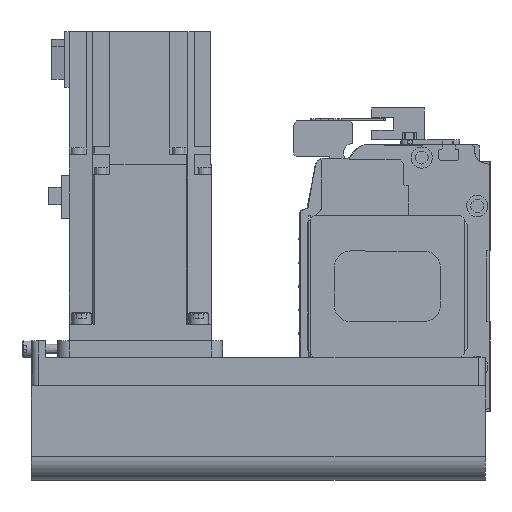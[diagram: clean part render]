
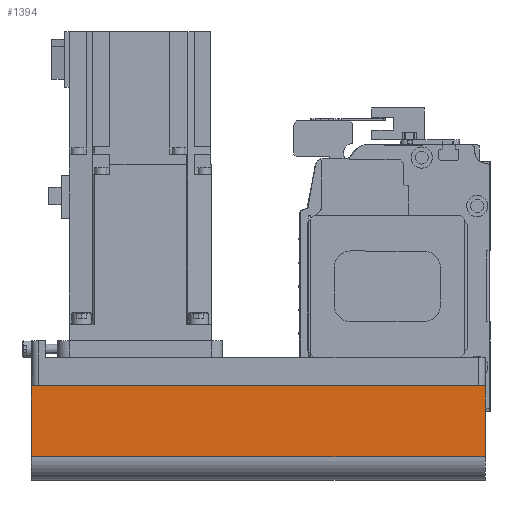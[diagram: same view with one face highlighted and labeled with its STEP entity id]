
A CAD part, left-side view. The second image highlights one B-rep face of the part: STEP entity #1394.
In plain terms, the highlighted planar face has unit normal (-1, 0, 0) as drawn and (0, -1, 0) by its records, which use the part's own axes.
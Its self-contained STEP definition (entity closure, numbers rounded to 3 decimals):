
#1394 = ADVANCED_FACE( '', ( #3271 ), #3272, .T. );
#3271 = FACE_OUTER_BOUND( '', #5783, .T. );
#3272 = PLANE( '', #5784 );
#5783 = EDGE_LOOP( '', ( #9697, #9698, #9699, #9700 ) );
#5784 = AXIS2_PLACEMENT_3D( '', #9701, #9702, #9703 );
#9697 = ORIENTED_EDGE( '', *, *, #15355, .F. );
#9698 = ORIENTED_EDGE( '', *, *, #15356, .F. );
#9699 = ORIENTED_EDGE( '', *, *, #15357, .T. );
#9700 = ORIENTED_EDGE( '', *, *, #15079, .T. );
#9701 = CARTESIAN_POINT( '', ( -192., -40., -12.1 ) );
#9702 = DIRECTION( '', ( 0., -1., 0. ) );
#9703 = DIRECTION( '', ( 0., 0., -1. ) );
#15079 = EDGE_CURVE( '', #18342, #18339, #18343, .T. );
#15355 = EDGE_CURVE( '', #18773, #18339, #18774, .T. );
#15356 = EDGE_CURVE( '', #18775, #18773, #18776, .T. );
#15357 = EDGE_CURVE( '', #18775, #18342, #18777, .T. );
#18339 = VERTEX_POINT( '', #22675 );
#18342 = VERTEX_POINT( '', #22678 );
#18343 = LINE( '', #22679, #22680 );
#18773 = VERTEX_POINT( '', #23255 );
#18774 = LINE( '', #23256, #23257 );
#18775 = VERTEX_POINT( '', #23258 );
#18776 = LINE( '', #23259, #23260 );
#18777 = LINE( '', #23261, #23262 );
#22675 = CARTESIAN_POINT( '', ( 0., -40., -42. ) );
#22678 = CARTESIAN_POINT( '', ( -192., -40., -42. ) );
#22679 = CARTESIAN_POINT( '', ( -192., -40., -42. ) );
#22680 = VECTOR( '', #26675, 1000. );
#23255 = CARTESIAN_POINT( '', ( 0., -40., -12.1 ) );
#23256 = CARTESIAN_POINT( '', ( 0., -40., -12.1 ) );
#23257 = VECTOR( '', #27025, 1000. );
#23258 = CARTESIAN_POINT( '', ( -192., -40., -12.1 ) );
#23259 = CARTESIAN_POINT( '', ( -192., -40., -12.1 ) );
#23260 = VECTOR( '', #27026, 1000. );
#23261 = CARTESIAN_POINT( '', ( -192., -40., -12.1 ) );
#23262 = VECTOR( '', #27027, 1000. );
#26675 = DIRECTION( '', ( 1., 0., 0. ) );
#27025 = DIRECTION( '', ( 0., 0., -1. ) );
#27026 = DIRECTION( '', ( 1., 0., 0. ) );
#27027 = DIRECTION( '', ( 0., 0., -1. ) );
